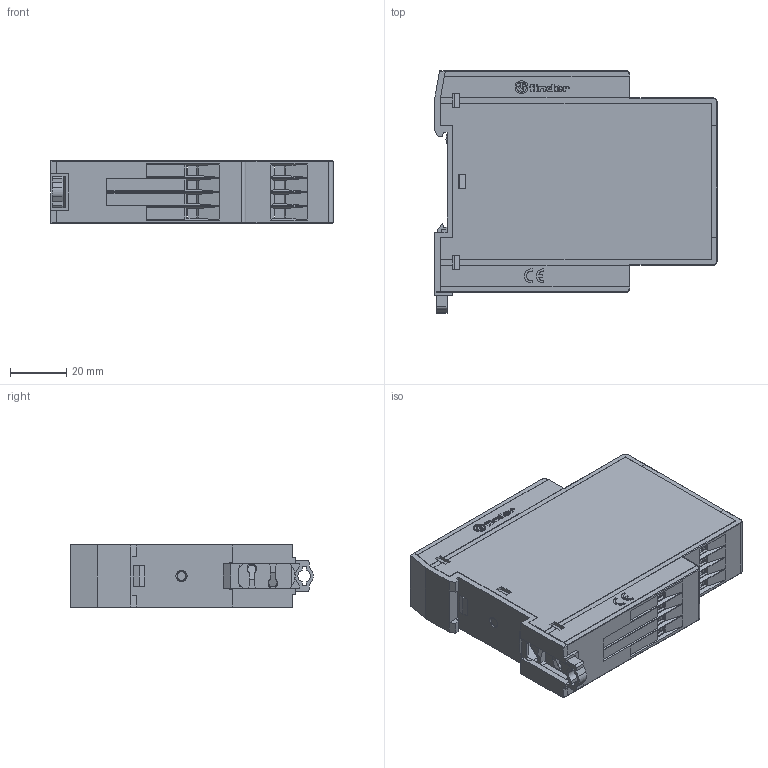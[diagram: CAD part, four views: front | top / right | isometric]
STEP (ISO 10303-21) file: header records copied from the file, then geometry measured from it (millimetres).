
FILE_DESCRIPTION(/* description */ ('Unknown'),/* implementation_level */ '2;1');
FILE_NAME(/* name */ '7S36 unico',/* time_stamp */ '2018-02-12T15:28:48+01:00',/* author */ ('Unknown'),/* organization */ ('Unknown'),/* preprocessor_version */ 'ST-DEVELOPER v16.7',/* originating_system */ 'DEX',/* authorisation */ $);
FILE_SCHEMA (('AUTOMOTIVE_DESIGN {1 0 10303 214 3 1 1}'));
Products named in the file (1): 7S36 unico
Bounding box: 100.3 x 86.25 x 22.5 mm (x, y, z)
Surface area: 61071.4 mm2 (no closed solid volume)
Topology: 0 solids, 215 shells, 3028 faces, 11433 edges, 8552 vertices
Faces by surface type: plane 2687, cylinder 222, cone 65, torus 40, bspline 14
Full cylindrical faces by diameter (mm): 3 x2, 4.566 x2, 4.6 x16, 4.7 x20
Entity records: 120216 total; most frequent: CARTESIAN_POINT 24135, DIRECTION 18227, ORIENTED_EDGE 17991, EDGE_CURVE 11360, LINE 10051, VECTOR 10051, VERTEX_POINT 8520, AXIS2_PLACEMENT_3D 4088
